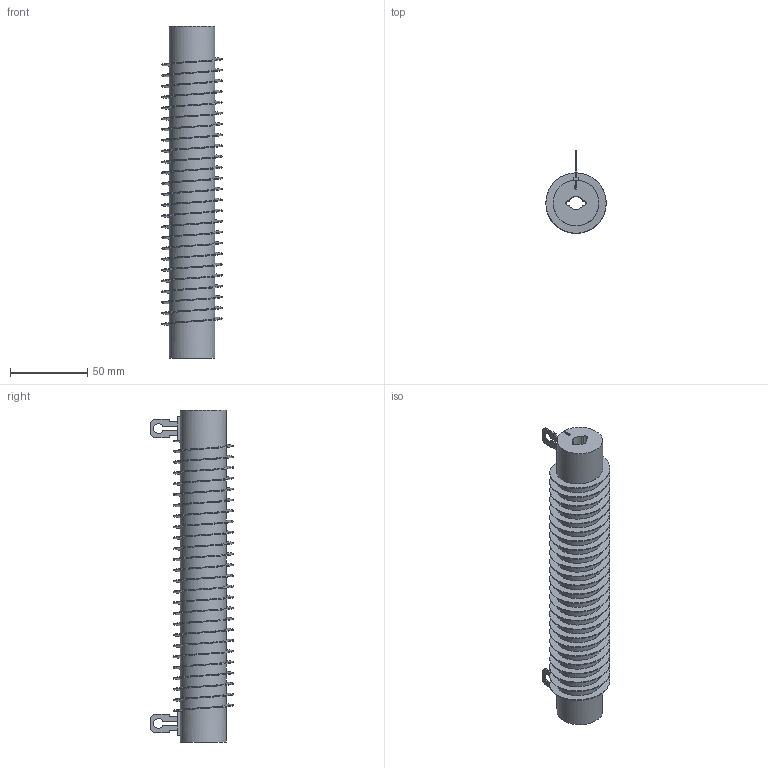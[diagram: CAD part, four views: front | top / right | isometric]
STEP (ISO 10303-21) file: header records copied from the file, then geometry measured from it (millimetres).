
FILE_DESCRIPTION(/* description */ (''),/* implementation_level */ '2;1');
FILE_NAME(/* name */ 'C:\_Vault\Dati\CATALOGO\RCPO-RSPO\RCPO-RSPO 152-420\CPO0300.stp',/* time_stamp */ '2014-01-22T16:49:04+01:00',/* author */ ('stefano'),/* organization */ (''),/* preprocessor_version */ 'ST-DEVELOPER v15.2',/* originating_system */ 'Autodesk Inventor 2014',/* authorisation */ '');
FILE_SCHEMA (('AUTOMOTIVE_DESIGN { 1 0 10303 214 3 1 1 }'));
Length unit declared in the file: millimetre
Products named in the file (1): CPO0300
Bounding box: 39 x 53.5 x 215 mm (x, y, z)
Volume: 140777.2 mm3; surface area: 58295 mm2
Topology: 1 solids, 1 shells, 108 faces, 324 edges, 215 vertices
Faces by surface type: plane 66, cylinder 40, bspline 2
Full cylindrical faces by diameter (mm): 29.6 x25
Entity records: 7416 total; most frequent: CARTESIAN_POINT 4950, ORIENTED_EDGE 498, DIRECTION 470, EDGE_CURVE 248, LINE 184, VECTOR 184, VERTEX_POINT 165, AXIS2_PLACEMENT_3D 143
